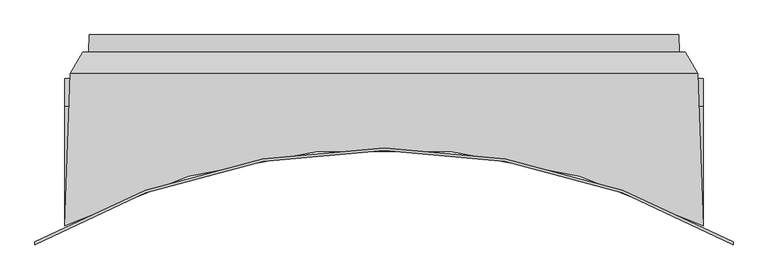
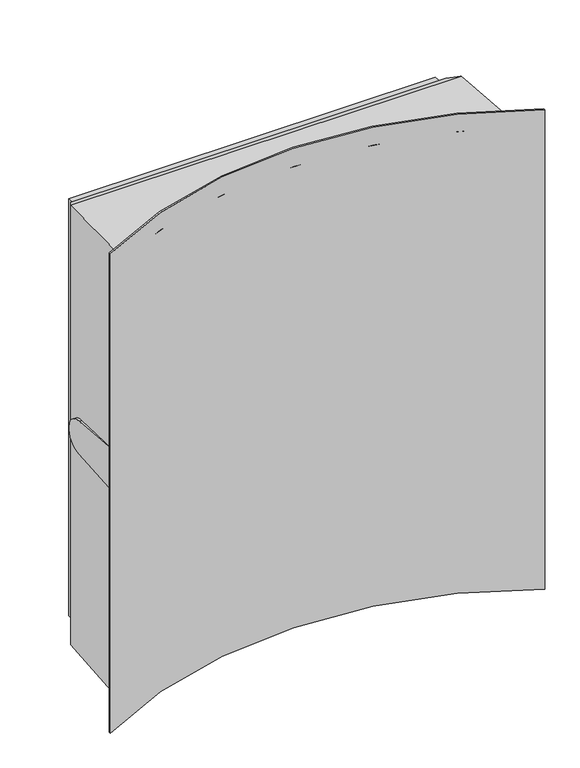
"""IFC4 building model written with IfcOpenShell, lengths in millimetres: proxy geometry, SU.1500x1800ManwayRiserAdaptor.3500."""

from ifc_helpers import new_model, si_unit, frame, origin, place, context, project, spatial, polyline, circle_curve, ellipse_curve, source, transform, mapped, element, save
from ifc_brep_helpers import plane_surface, cylinder_surface, revolved_surface, advanced_brep


def generic_models_54e7e838(model_context):
    return source(origin(), model_context, "Body", "AdvancedBrep", [
        advanced_brep(
        [(-741.5036573, 0.0, -891.5036573), (741.5036573, 0.0, -891.5036573), (743.0401711, -44.0, -893.0401711), (-743.0401711, -44.0, -893.0401711), (758.3020983, -44.0, 908.3020983), (758.3020983, -44.0, -908.3020983), (-758.3020983, -44.0, -908.3020983), (-758.3020983, -44.0, 908.3020983), (743.0401711, -44.0, 893.0401711), (-743.0401711, -44.0, 893.0401711), (-741.5036573, 0.0, 891.5036573), (741.5036573, 0.0, 891.5036573), (-803.25, -180.0, 70.0), (-803.25, -480.9936154, 94.0587578), (-803.009418, -480.8693451, 94.0488248), (-792.5028289, -180.0, 70.0), (-792.5028289, -180.0, -70.0), (-803.25, -180.0, -70.0), (-803.25, -480.9936154, -94.0587578), (-803.009418, -480.8693451, -94.0488248), (878.2496957, -522.0934894, 1025.0), (878.2496957, -522.0934894, -1025.0), (-878.2496957, -522.0934894, -1025.0), (-878.2496957, -522.0934894, 1025.0), (-803.009418, -480.8693451, -953.009418), (803.009418, -480.8693451, -953.009418), (803.009418, -480.8693451, -94.0488248), (803.25, -480.9936154, -94.0587578), (803.25, -480.9936154, 94.0587578), (803.009418, -480.8693451, 94.0488248), (803.009418, -480.8693451, 953.009418), (-803.009418, -480.8693451, 953.009418), (-789.6496465, -98.2955463, 939.6496465), (-789.6496465, -98.2955463, -939.6496465), (803.25, -180.0, 70.0), (792.5028289, -180.0, 70.0), (803.25, -180.0, -70.0), (792.5028289, -180.0, -70.0), (789.6496465, -98.2955463, -939.6496465), (789.6496465, -98.2955463, 939.6496465), (878.2496957, -529.0343233, -1025.0), (878.2496957, -529.0343233, 1025.0), (-878.2496957, -529.0343233, 1025.0), (-878.2496957, -529.0343233, -1025.0)],
        [
            (0, 1),
            (1, 2),
            (2, 3),
            (3, 0),
            (4, 5),
            (5, 6),
            (6, 7),
            (7, 4),
            (2, 8),
            (8, 9),
            (9, 3),
            (10, 0),
            (9, 10),
            (11, 10),
            (8, 11),
            (1, 11),
            (12, 13),
            (13, 14, ellipse_curve(frame((0.0, -2035.7570821, 218.3327485), z_axis=(0.0, -0.07967700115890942, -0.99682073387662), x_axis=(0.0, -0.99682073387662, 0.07967700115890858)), 1755.5814607, 1750.0)),
            (14, 15),
            (15, 12),
            (15, 16, ellipse_curve(frame((-792.5028289, -180.0, 0.0), z_axis=(-0.9993908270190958, 0.03489949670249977, 0.0), x_axis=(0.034899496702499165, 0.9993908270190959, 0.0)), 70.0426681, 70.0)),
            (16, 17),
            (17, 12, circle_curve(frame((-803.25, -180.0, 0.0), z_axis=(1.0, 0.0, 0.0), x_axis=(0.0, 0.0, -1.0)), 70.0)),
            (18, 17),
            (16, 19),
            (19, 18, ellipse_curve(frame((0.0, -2035.7570821, -218.3327485), z_axis=(0.0, -0.07967700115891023, 0.99682073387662), x_axis=(0.0, 0.9968207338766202, 0.0796770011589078)), 1755.5814607, 1750.0)),
            (20, 21),
            (21, 22, circle_curve(frame((0.0, -2035.7570821, -1025.0), z_axis=(0.0, 0.0, 1.0), x_axis=(0.5018569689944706, 0.8649506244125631, 0.0)), 1750.0)),
            (22, 23),
            (23, 20, circle_curve(frame((0.0, -2035.7570821, 1025.0), z_axis=(0.0, 0.0, -1.0), x_axis=(0.5018569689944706, 0.8649506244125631, 0.0)), 1750.0)),
            (13, 18),
            (19, 24),
            (24, 25, ellipse_curve(frame((0.0, -2035.7570821, -1007.3072942), z_axis=(0.0, 0.03489949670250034, -0.9993908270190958), x_axis=(0.0, 0.9993908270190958, 0.03489949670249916)), 1751.0667025, 1750.0)),
            (25, 26),
            (26, 27, ellipse_curve(frame((0.0, -2035.7570821, -218.3327485), z_axis=(0.0, 0.07967700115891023, -0.99682073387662), x_axis=(0.0, 0.9968207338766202, 0.0796770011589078)), 1755.5814607, 1750.0)),
            (27, 28),
            (28, 29, ellipse_curve(frame((0.0, -2035.7570821, 218.3327485), z_axis=(0.0, 0.07967700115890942, 0.99682073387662), x_axis=(0.0, -0.99682073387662, 0.07967700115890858)), 1755.5814607, 1750.0)),
            (29, 30),
            (30, 31, ellipse_curve(frame((0.0, -2035.7570821, 1007.3072942), z_axis=(0.0, 0.034899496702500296, 0.9993908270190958), x_axis=(0.0, -0.9993908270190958, 0.03489949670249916)), 1751.0667025, 1750.0)),
            (31, 14),
            (31, 32),
            (32, 33),
            (33, 24),
            (34, 35),
            (35, 29),
            (28, 34),
            (34, 36, circle_curve(frame((803.25, -180.0, 0.0), z_axis=(-1.0, 0.0, 0.0), x_axis=(0.0, 0.0, -1.0)), 70.0)),
            (36, 37),
            (37, 35, ellipse_curve(frame((792.5028289, -180.0, 0.0), z_axis=(0.9993908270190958, 0.03489949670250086, 0.0), x_axis=(0.03489949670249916, -0.9993908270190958, 0.0)), 70.0426681, 70.0)),
            (27, 36),
            (26, 37),
            (25, 38),
            (38, 39),
            (39, 30),
            (33, 38),
            (38, 5),
            (4, 39),
            (33, 6),
            (32, 7),
            (39, 32),
            (40, 41),
            (41, 42, circle_curve(frame((0.0, -2035.7570821, 1025.0), z_axis=(0.0, 0.0, 1.0), x_axis=(-0.5035835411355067, -0.8639465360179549, 0.0)), 1744.0)),
            (42, 43),
            (43, 40, circle_curve(frame((0.0, -2035.7570821, -1025.0), z_axis=(0.0, 0.0, -1.0), x_axis=(-0.5035835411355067, -0.8639465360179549, 0.0)), 1744.0)),
            (40, 21),
            (20, 41),
            (42, 23),
            (22, 43),
        ],
        [
            plane_surface(frame((700.0, 0.0, -891.5036573), z_axis=(0.0, 0.03489949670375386, -0.999390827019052), x_axis=(0.0, -0.999390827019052, -0.03489949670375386))),
            plane_surface(frame((700.0, -44.0, -893.0401711), z_axis=(0.0, 1.0, 0.0), x_axis=(0.0, 0.0, -1.0))),
            plane_surface(frame((-741.5036573, 0.0, -850.0), z_axis=(-0.999390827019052, 0.034899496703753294, 0.0), x_axis=(-0.034899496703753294, -0.999390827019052, 0.0))),
            plane_surface(frame((-700.0, 0.0, 891.5036573), z_axis=(0.0, 0.03489949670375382, 0.999390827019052), x_axis=(0.0, -0.999390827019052, 0.03489949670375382))),
            plane_surface(frame((741.5036573, 0.0, 850.0), z_axis=(0.999390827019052, 0.0348994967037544, 0.0), x_axis=(0.0348994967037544, -0.999390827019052, 0.0))),
            plane_surface(frame((0.0, -180.0, 70.0), z_axis=(0.0, 0.07967700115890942, 0.99682073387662), x_axis=(0.0, -0.99682073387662, 0.07967700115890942))),
            cylinder_surface(frame((0.0, -180.0, 0.0), z_axis=(1.0, 0.0, 0.0), x_axis=(0.0, 0.0, -1.0)), 70.0),
            plane_surface(frame((0.0, -487.75, -94.5988032), z_axis=(0.0, 0.07967700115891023, -0.99682073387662), x_axis=(0.0, 0.99682073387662, 0.07967700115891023))),
            cylinder_surface(frame((0.0, -2035.7570821, 0.0), z_axis=(0.0, 0.0, 0.9999999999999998), x_axis=(0.5018569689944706, 0.8649506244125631, 0.0)), 1750.0),
            plane_surface(frame((-789.6496465, -98.2955463, -850.0), z_axis=(-0.9993908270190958, 0.03489949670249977, 0.0), x_axis=(-0.03489949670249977, -0.9993908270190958, 0.0))),
            plane_surface(frame((803.25, -298.875, 0.0), z_axis=(1.0, 0.0, 0.0), x_axis=(0.0, 0.0, -1.0))),
            plane_surface(frame((789.6496465, -98.2955463, 850.0), z_axis=(0.9993908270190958, 0.03489949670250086, 0.0), x_axis=(0.03489949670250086, -0.9993908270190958, 0.0))),
            plane_surface(frame((700.0, -98.2955463, -939.6496465), z_axis=(0.0, 0.03489949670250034, -0.9993908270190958), x_axis=(0.0, -0.9993908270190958, -0.03489949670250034))),
            plane_surface(frame((758.3020983, -44.0, 850.0), z_axis=(0.8660254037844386, 0.5000000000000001, 0.0), x_axis=(0.5000000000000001, -0.8660254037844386, 0.0))),
            plane_surface(frame((700.0, -44.0, -908.3020983), z_axis=(0.0, 0.49999999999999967, -0.8660254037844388), x_axis=(0.0, -0.8660254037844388, -0.49999999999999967))),
            plane_surface(frame((-758.3020983, -44.0, -850.0), z_axis=(-0.8660254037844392, 0.49999999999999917, 0.0), x_axis=(-0.49999999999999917, -0.8660254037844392, 0.0))),
            plane_surface(frame((-700.0, -98.2955463, 939.6496465), z_axis=(0.0, 0.034899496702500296, 0.9993908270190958), x_axis=(0.0, -0.9993908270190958, 0.034899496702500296))),
            plane_surface(frame((-700.0, -44.0, 908.3020983), z_axis=(0.0, 0.4999999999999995, 0.8660254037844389), x_axis=(0.0, -0.8660254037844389, 0.4999999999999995))),
            revolved_surface(polyline([(-878.2496957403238, -3542.4798409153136, 1025.0), (-878.2496957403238, -3542.4798409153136, -1025.0)]), (0.0, -2035.7570821, 0.0), (0.0, 0.0, 1.0)),
            plane_surface(frame((878.2496957, -529.0343233, 0.0), z_axis=(1.0, 0.0, 0.0), x_axis=(0.0, 1.0, 0.0))),
            plane_surface(frame((-878.2496957, -522.0934894, 0.0), z_axis=(-1.0, 0.0, 0.0), x_axis=(0.0, -1.0, 0.0))),
            plane_surface(frame((0.0, -407.3957027, 1025.0), z_axis=(0.0, 0.0, 1.0), x_axis=(1.0, 0.0, 0.0))),
            plane_surface(frame((-803.25, -298.875, 0.0), z_axis=(-1.0, 0.0, 0.0), x_axis=(0.0, 0.0, -1.0))),
            plane_surface(frame((0.0, -407.3957027, -1025.0), z_axis=(0.0, 0.0, -1.0), x_axis=(1.0, 0.0, 0.0))),
            plane_surface(frame((700.0, 0.0, -885.5), z_axis=(0.0, 1.0, 0.0), x_axis=(0.0, 0.0, -1.0))),
        ],
        [
            (0, [[1, 2, 3, 4]]),
            (1, [[5, 6, 7, 8], [9, 10, 11, -3]]),
            (2, [[12, -4, -11, 13]]),
            (3, [[14, -13, -10, 15]]),
            (4, [[16, -15, -9, -2]]),
            (5, [[17, 18, 19, 20]]),
            (6, [[-20, 21, 22, 23]]),
            (7, [[24, -22, 25, 26]]),
            (8, [[27, 28, 29, 30], [-18, 31, -26, 32, 33, 34, 35, 36, 37, 38, 39, 40]]),
            (9, [[-40, 41, 42, 43, -32, -25, -21, -19]]),
            (5, [[44, 45, -37, 46]]),
            (6, [[-44, 47, 48, 49]]),
            (10, [[-47, -46, -36, 50]]),
            (7, [[-48, -50, -35, 51]]),
            (11, [[-45, -49, -51, -34, 52, 53, 54, -38]]),
            (12, [[-52, -33, -43, 55]]),
            (13, [[-53, 56, -5, 57]]),
            (14, [[-55, 58, -6, -56]]),
            (15, [[-42, 59, -7, -58]]),
            (16, [[-41, -39, -54, 60]]),
            (17, [[-60, -57, -8, -59]]),
            (18, [[61, 62, 63, 64]]),
            (19, [[-61, 65, -27, 66]]),
            (20, [[-63, 67, -29, 68]]),
            (21, [[-66, -30, -67, -62]]),
            (22, [[-17, -23, -24, -31]]),
            (23, [[-64, -68, -28, -65]]),
            (24, [[-1, -12, -14, -16]]),
        ],
    ),
    ])


if __name__ == "__main__":
    model = new_model("IFC4")
    model_context = context("Model", 3, world=origin())
    ifc_project = project(units=[si_unit("LENGTHUNIT", "METRE", prefix="MILLI")], contexts=[model_context])
    site = spatial("IfcSite", under=ifc_project)
    building = spatial("IfcBuilding", under=site)
    placement = place(None, origin())
    generic_models_shape = generic_models_54e7e838(model_context)
    element("IfcBuildingElementProxy", 1, Name="SU.1500x1800ManwayRiserAdaptor.3500", ObjectType="SU.1500x1800ManwayRiserAdaptor.3500", at=placement, inside=building, context=model_context, shape_type="MappedRepresentation", body=[
        mapped(generic_models_shape, transform((0.0, 0.0, 0.0), x_axis=(1.0, 0.0, 0.0), y_axis=(0.0, 1.0, 0.0), z_axis=(0.0, 0.0, 1.0))),
    ])
    save(model, "model.ifc")
